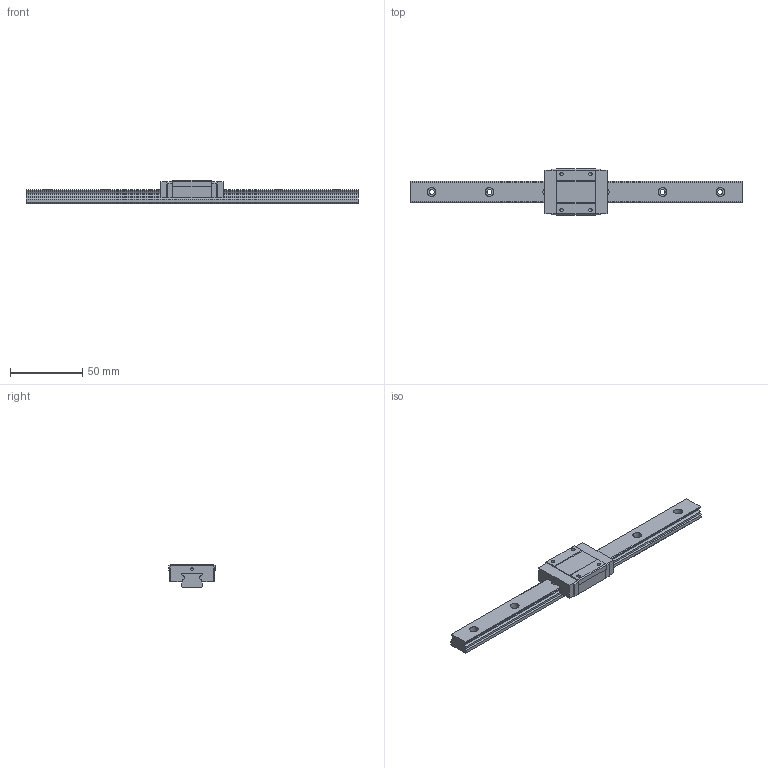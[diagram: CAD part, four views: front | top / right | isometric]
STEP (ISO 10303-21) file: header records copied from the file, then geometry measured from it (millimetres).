
FILE_DESCRIPTION((''),'2;1');
FILE_NAME('C:\Documents and Settings\土屋\My Documents\土屋移動用フォルダ\製品 (図面)\カタログ用3D\リニアガイド\EGM\EGM15.stp','2015-02-21T13:07:52',('y'),(''),'Autodesk Inventor 11','Autodesk Inventor 11','');
FILE_SCHEMA(('AUTOMOTIVE_DESIGN { 1 0 10303 214 1 1 1 1 }'));
Length unit declared in the file: millimetre
Products named in the file (3): EGM15; EGM15レール; EGM15ベアリング
Assembly tree (2 placements, depth 2):
  EGM15
    EGM15レール
    EGM15ベアリング
Bounding box: 230 x 32 x 16 mm (x, y, z)
Volume: 40225.3 mm3; surface area: 18004.8 mm2
Topology: 2 solids, 2 shells, 108 faces, 282 edges, 186 vertices
Faces by surface type: plane 60, bspline 28, cylinder 20
Full cylindrical faces by diameter (mm): 1.8 x1
Entity records: 3505 total; most frequent: CARTESIAN_POINT 921, ORIENTED_EDGE 504, DIRECTION 498, EDGE_CURVE 252, VERTEX_POINT 178, VECTOR 176, LINE 176, AXIS2_PLACEMENT_3D 161
